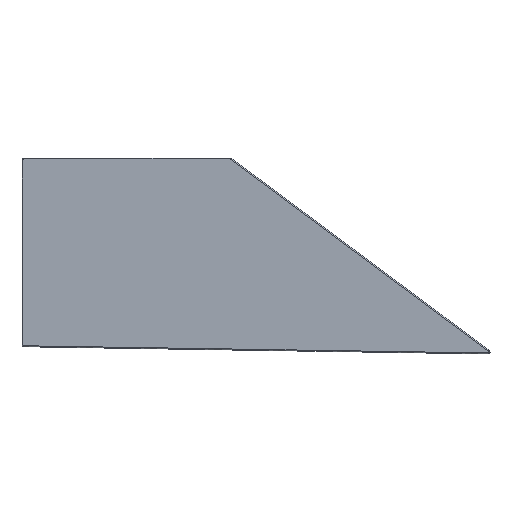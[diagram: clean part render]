
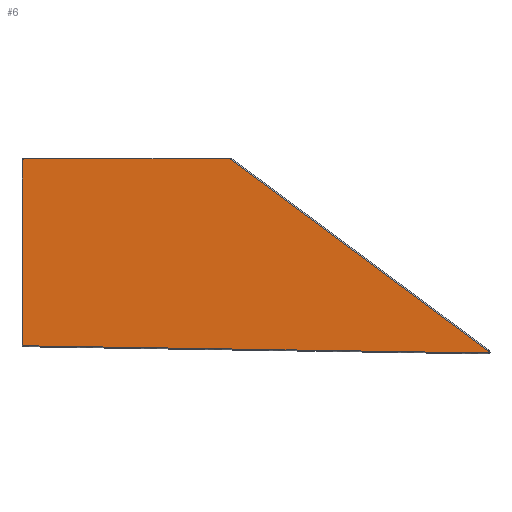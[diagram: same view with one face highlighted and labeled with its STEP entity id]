
A CAD part, top view. The second image highlights one B-rep face of the part: STEP entity #6.
In plain terms, the highlighted planar face has unit normal (0, 0, 1).
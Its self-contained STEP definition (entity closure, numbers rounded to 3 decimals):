
#6 = ADVANCED_FACE ( 'NONE', ( #860 ), #1029, .F. ) ;
#18 = DIRECTION ( 'NONE',  ( 0., 0., -1. ) ) ;
#73 = AXIS2_PLACEMENT_3D ( 'NONE', #319, #1007, #2043 ) ;
#90 = ORIENTED_EDGE ( 'NONE', *, *, #669, .F. ) ;
#146 = DIRECTION ( 'NONE',  ( 1., 0., 0. ) ) ;
#170 = EDGE_CURVE ( 'NONE', #674, #442, #1651, .T. ) ;
#178 = CIRCLE ( 'NONE', #73, 0.254 ) ;
#182 = CARTESIAN_POINT ( 'NONE',  ( -63.301, 52.282, 10.858 ) ) ;
#185 = CARTESIAN_POINT ( 'NONE',  ( 0., 0., 10.858 ) ) ;
#258 = CARTESIAN_POINT ( 'NONE',  ( 22.516, 30.24, 10.858 ) ) ;
#300 = EDGE_CURVE ( 'NONE', #367, #674, #1051, .T. ) ;
#319 = CARTESIAN_POINT ( 'NONE',  ( 61.989, 0.532, 10.858 ) ) ;
#367 = VERTEX_POINT ( 'NONE', #898 ) ;
#393 = DIRECTION ( 'NONE',  ( 1., 0., 0. ) ) ;
#440 = EDGE_CURVE ( 'NONE', #1869, #983, #1500, .T. ) ;
#442 = VERTEX_POINT ( 'NONE', #182 ) ;
#492 = EDGE_LOOP ( 'NONE', ( #90, #1511, #1151, #610, #2011, #2158, #1982, #1686, #1460 ) ) ;
#493 = DIRECTION ( 'NONE',  ( 1., 0., 0. ) ) ;
#528 = CARTESIAN_POINT ( 'NONE',  ( 0.019, 1.244, 10.858 ) ) ;
#530 = DIRECTION ( 'NONE',  ( 1., 0., 0. ) ) ;
#554 = VERTEX_POINT ( 'NONE', #1629 ) ;
#610 = ORIENTED_EDGE ( 'NONE', *, *, #300, .F. ) ;
#642 = CARTESIAN_POINT ( 'NONE',  ( -7.513, 52.536, 10.858 ) ) ;
#644 = CARTESIAN_POINT ( 'NONE',  ( 61.989, 0.532, 10.858 ) ) ;
#645 = VERTEX_POINT ( 'NONE', #678 ) ;
#657 = EDGE_CURVE ( 'NONE', #645, #1001, #1463, .T. ) ;
#669 = EDGE_CURVE ( 'NONE', #1330, #1869, #1331, .T. ) ;
#674 = VERTEX_POINT ( 'NONE', #1173 ) ;
#678 = CARTESIAN_POINT ( 'NONE',  ( 62.243, 0.532, 10.858 ) ) ;
#733 = CARTESIAN_POINT ( 'NONE',  ( -63.301, 0., 10.858 ) ) ;
#739 = VECTOR ( 'NONE', #1224, 1000. ) ;
#795 = CARTESIAN_POINT ( 'NONE',  ( 0., 52.536, 10.858 ) ) ;
#860 = FACE_OUTER_BOUND ( 'NONE', #492, .T. ) ;
#877 = EDGE_CURVE ( 'NONE', #1001, #367, #1388, .T. ) ;
#898 = CARTESIAN_POINT ( 'NONE',  ( -63.051, 2.226, 10.858 ) ) ;
#946 = DIRECTION ( 'NONE',  ( 0.802, -0.597, 0. ) ) ;
#966 = EDGE_CURVE ( 'NONE', #442, #1330, #1177, .T. ) ;
#979 = AXIS2_PLACEMENT_3D ( 'NONE', #1552, #2042, #146 ) ;
#983 = VERTEX_POINT ( 'NONE', #1811 ) ;
#1001 = VERTEX_POINT ( 'NONE', #1638 ) ;
#1007 = DIRECTION ( 'NONE',  ( 0., 0., -1. ) ) ;
#1029 = PLANE ( 'NONE',  #1948 ) ;
#1051 = CIRCLE ( 'NONE', #979, 0.254 ) ;
#1060 = DIRECTION ( 'NONE',  ( 0., 1., 0. ) ) ;
#1100 = VECTOR ( 'NONE', #493, 1000. ) ;
#1151 = ORIENTED_EDGE ( 'NONE', *, *, #170, .F. ) ;
#1173 = CARTESIAN_POINT ( 'NONE',  ( -63.301, 2.48, 10.858 ) ) ;
#1177 = CIRCLE ( 'NONE', #1786, 0.254 ) ;
#1222 = CARTESIAN_POINT ( 'NONE',  ( -63.047, 52.536, 10.858 ) ) ;
#1224 = DIRECTION ( 'NONE',  ( -1., 0.016, 0. ) ) ;
#1286 = DIRECTION ( 'NONE',  ( 0., 0., -1. ) ) ;
#1330 = VERTEX_POINT ( 'NONE', #1222 ) ;
#1331 = LINE ( 'NONE', #795, #1100 ) ;
#1388 = LINE ( 'NONE', #528, #739 ) ;
#1424 = AXIS2_PLACEMENT_3D ( 'NONE', #1900, #2077, #530 ) ;
#1460 = ORIENTED_EDGE ( 'NONE', *, *, #440, .F. ) ;
#1463 = CIRCLE ( 'NONE', #2072, 0.254 ) ;
#1479 = EDGE_CURVE ( 'NONE', #983, #554, #1809, .T. ) ;
#1500 = CIRCLE ( 'NONE', #1424, 0.254 ) ;
#1511 = ORIENTED_EDGE ( 'NONE', *, *, #966, .F. ) ;
#1536 = DIRECTION ( 'NONE',  ( 1., 0., 0. ) ) ;
#1552 = CARTESIAN_POINT ( 'NONE',  ( -63.047, 2.48, 10.858 ) ) ;
#1564 = DIRECTION ( 'NONE',  ( 1., 0., 0. ) ) ;
#1603 = VECTOR ( 'NONE', #946, 1000. ) ;
#1629 = CARTESIAN_POINT ( 'NONE',  ( 62.141, 0.736, 10.858 ) ) ;
#1638 = CARTESIAN_POINT ( 'NONE',  ( 61.985, 0.278, 10.858 ) ) ;
#1651 = LINE ( 'NONE', #733, #2170 ) ;
#1685 = DIRECTION ( 'NONE',  ( 0., 0., -1. ) ) ;
#1686 = ORIENTED_EDGE ( 'NONE', *, *, #1479, .F. ) ;
#1786 = AXIS2_PLACEMENT_3D ( 'NONE', #1958, #1286, #393 ) ;
#1809 = LINE ( 'NONE', #258, #1603 ) ;
#1811 = CARTESIAN_POINT ( 'NONE',  ( -7.362, 52.486, 10.858 ) ) ;
#1869 = VERTEX_POINT ( 'NONE', #642 ) ;
#1900 = CARTESIAN_POINT ( 'NONE',  ( -7.513, 52.282, 10.858 ) ) ;
#1948 = AXIS2_PLACEMENT_3D ( 'NONE', #185, #18, #1564 ) ;
#1958 = CARTESIAN_POINT ( 'NONE',  ( -63.047, 52.282, 10.858 ) ) ;
#1982 = ORIENTED_EDGE ( 'NONE', *, *, #2061, .F. ) ;
#2011 = ORIENTED_EDGE ( 'NONE', *, *, #877, .F. ) ;
#2042 = DIRECTION ( 'NONE',  ( 0., 0., -1. ) ) ;
#2043 = DIRECTION ( 'NONE',  ( 1., 0., 0. ) ) ;
#2061 = EDGE_CURVE ( 'NONE', #554, #645, #178, .T. ) ;
#2072 = AXIS2_PLACEMENT_3D ( 'NONE', #644, #1685, #1536 ) ;
#2077 = DIRECTION ( 'NONE',  ( 0., 0., -1. ) ) ;
#2158 = ORIENTED_EDGE ( 'NONE', *, *, #657, .F. ) ;
#2170 = VECTOR ( 'NONE', #1060, 1000. ) ;
